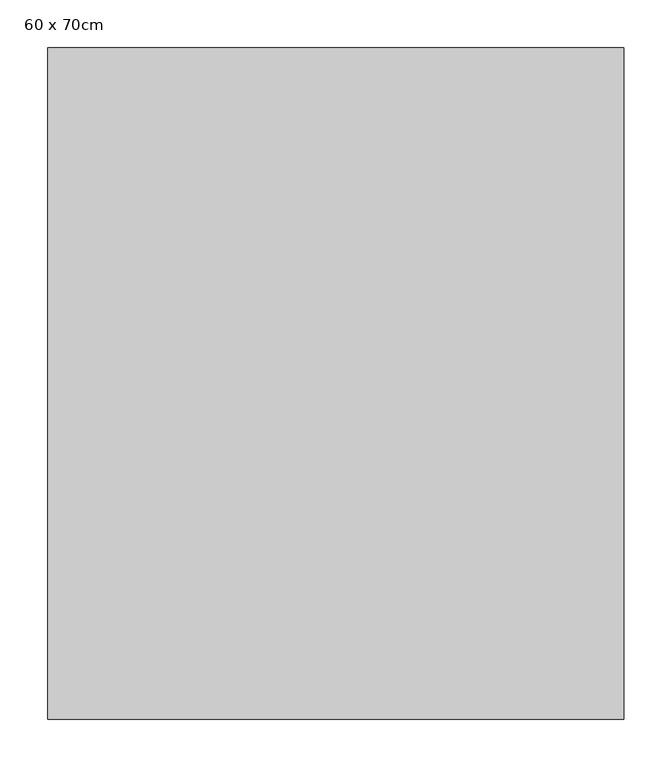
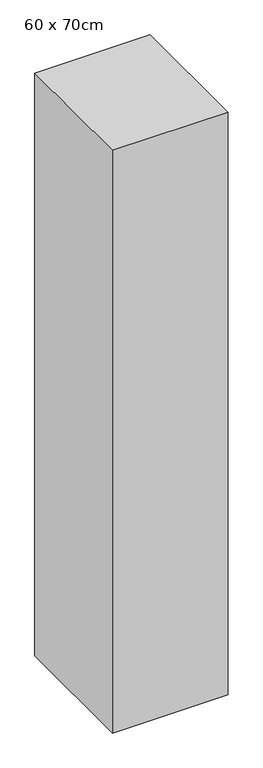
"""IFC4 building model written with IfcOpenShell, lengths in millimetres: column geometry, 混凝土柱-矩形 : 60 x 70cm."""

from ifc_helpers import new_model, si_unit, frame, origin, place, context, project, spatial, polyline, outline, extrude, source, transform, mapped, element, save


def column_60_x_70cm_ea97037a(model_context):
    return source(origin(), model_context, "Body", "SweptSolid", [
        extrude(outline(polyline([(300.0, 350.0), (300.0, -350.0), (-300.0, -350.0), (-300.0, 350.0), (300.0, 350.0)])), frame((0.0, 0.0, -9600.0), z_axis=(0.0, 0.0, 1.0), x_axis=(1.0, 0.0, 0.0)), (0.0, 0.0, 1.0), 3200.0),
    ])


if __name__ == "__main__":
    model = new_model("IFC4")
    model_context = context("Model", 3, world=origin())
    ifc_project = project(units=[si_unit("LENGTHUNIT", "METRE", prefix="MILLI")], contexts=[model_context])
    site = spatial("IfcSite", under=ifc_project)
    building = spatial("IfcBuilding", under=site)
    placement = place(None, origin())
    column_60_x_70cm_shape = column_60_x_70cm_ea97037a(model_context)
    element("IfcColumn", 1, ObjectType="混凝土柱-矩形 : 60 x 70cm", at=placement, inside=building, context=model_context, shape_type="MappedRepresentation", body=[
        mapped(column_60_x_70cm_shape, transform((0.0, 0.0, 0.0), x_axis=(1.0, 0.0, 0.0), y_axis=(0.0, 1.0, 0.0), z_axis=(0.0, 0.0, 1.0))),
    ])
    save(model, "model.ifc")
